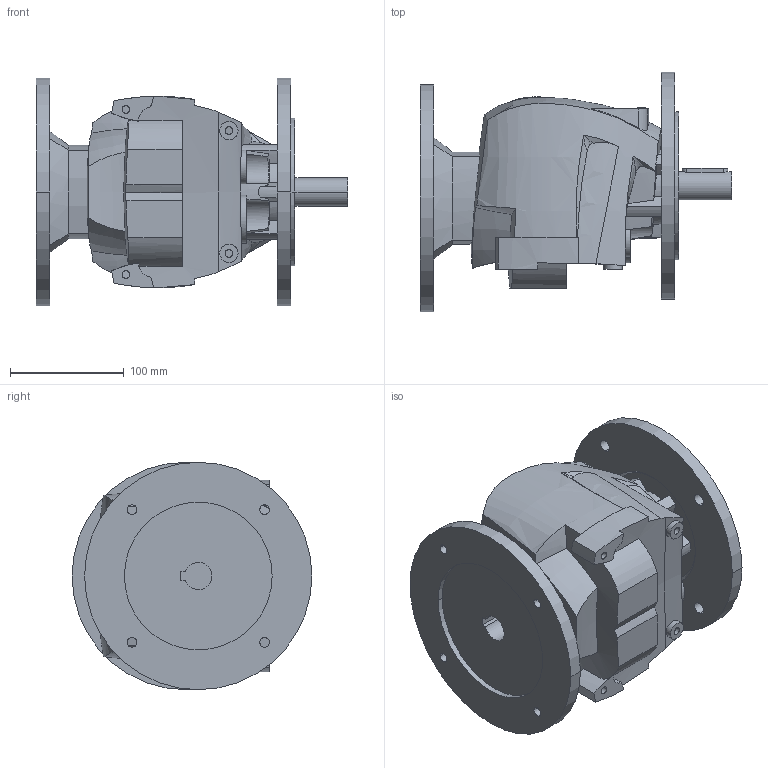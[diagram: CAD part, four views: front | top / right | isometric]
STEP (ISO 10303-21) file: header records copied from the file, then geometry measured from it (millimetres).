
FILE_DESCRIPTION((''),'2;1');
FILE_NAME('R25_200_PAM90','2013-12-18T',('Luca'),(''),'PRO/ENGINEER BY PARAMETRIC TECHNOLOGY CORPORATION, 2008230','PRO/ENGINEER BY PARAMETRIC TECHNOLOGY CORPORATION, 2008230','');
FILE_SCHEMA(('CONFIG_CONTROL_DESIGN'));
Length unit declared in the file: millimetre
Products named in the file (1): R25_200_PAM90
Bounding box: 274 x 211 x 200 mm (x, y, z)
Volume: 3825038.4 mm3; surface area: 275414.6 mm2
Topology: 1 solids, 7 shells, 406 faces, 1077 edges, 717 vertices
Faces by surface type: plane 148, cylinder 128, bspline 112, cone 12, torus 6
Entity records: 18367 total; most frequent: CARTESIAN_POINT 9069, ORIENTED_EDGE 2150, DIRECTION 1527, EDGE_CURVE 1075, VERTEX_POINT 717, AXIS2_PLACEMENT_3D 538, EDGE_LOOP 456, VECTOR 451
